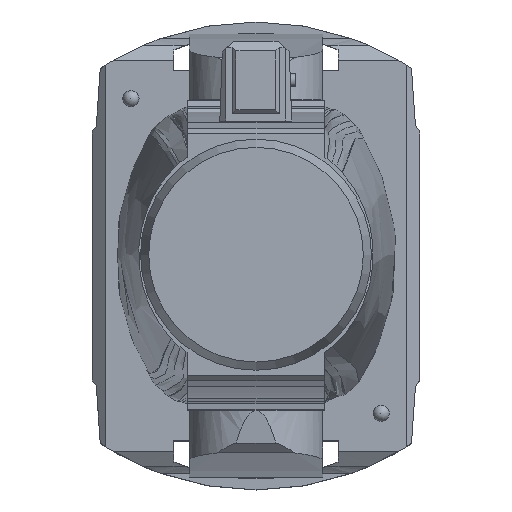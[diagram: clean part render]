
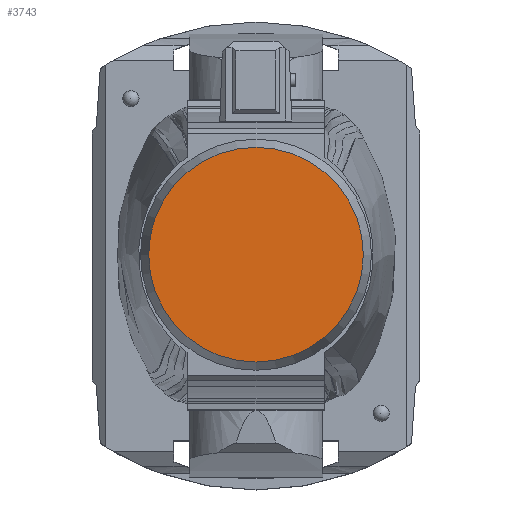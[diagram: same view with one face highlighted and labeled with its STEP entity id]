
A CAD part, top view. The second image highlights one B-rep face of the part: STEP entity #3743.
In plain terms, the highlighted planar face has unit normal (0, 0, 1).
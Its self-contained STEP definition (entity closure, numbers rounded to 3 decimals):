
#104=CIRCLE('',#4019,109.861);
#186=PLANE('',#4020);
#1283=ORIENTED_EDGE('',*,*,#1947,.F.);
#1947=EDGE_CURVE('',#2358,#2358,#104,.T.);
#2358=VERTEX_POINT('',#8264);
#3251=EDGE_LOOP('',(#1283));
#3484=FACE_BOUND('',#3251,.T.);
#3743=ADVANCED_FACE('',(#3484),#186,.F.);
#4019=AXIS2_PLACEMENT_3D('',#8263,#4648,#4649);
#4020=AXIS2_PLACEMENT_3D('',#8265,#4650,#4651);
#4648=DIRECTION('',(0.,0.,-1.));
#4649=DIRECTION('',(-1.,0.,0.));
#4650=DIRECTION('',(0.,0.,-1.));
#4651=DIRECTION('',(-1.,0.,0.));
#8263=CARTESIAN_POINT('',(0.,0.,819.401));
#8264=CARTESIAN_POINT('',(-109.861,0.,819.401));
#8265=CARTESIAN_POINT('',(0.,0.,819.401));
